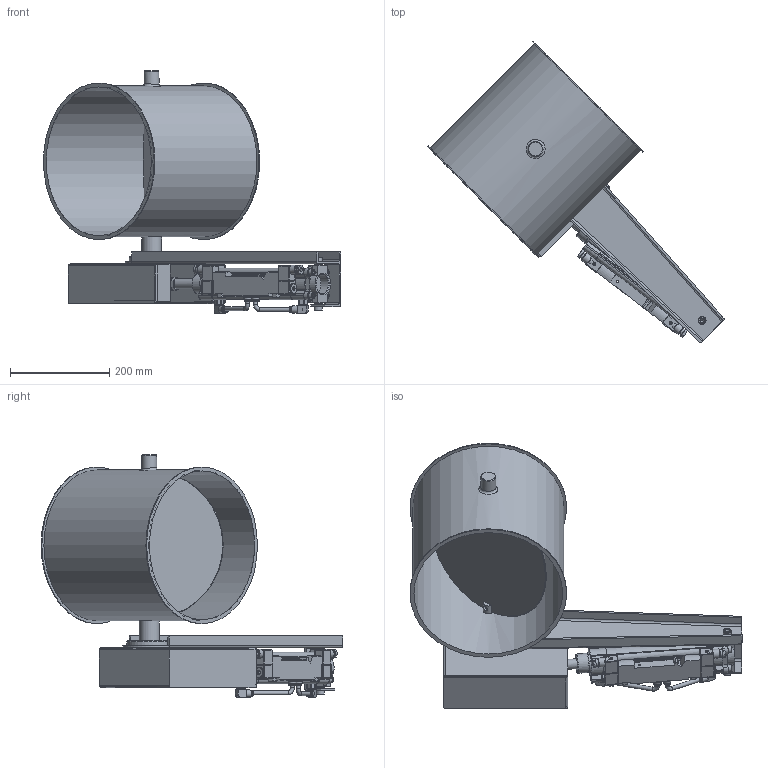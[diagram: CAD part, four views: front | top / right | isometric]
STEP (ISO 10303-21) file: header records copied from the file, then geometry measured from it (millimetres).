
FILE_DESCRIPTION((''),'2;1');
FILE_NAME('U:\Wolfgang\Marcel-3D\fertig\Kapitel 8\3021211.stp','2012-01-13T11:17:38',('iwienholt'),(''),'Autodesk Inventor 2010','Autodesk Inventor 2010','');
FILE_SCHEMA(('AUTOMOTIVE_DESIGN { 1 0 10303 214 1 1 1 1 }'));
Length unit declared in the file: millimetre
Products named in the file (33): 3021211; BuchseD20 90-50; Bolzen D20; Scheibe300b; F1 Zylindereinheit d20; 4527_MSFG_24_42_50_60_6_0; 4527_MSFG_24_42_50_60_6_01; 4527_MSFG_24_42_50_60_6_02; 537600_VUVB_S_B42_ZD_Q8_3AC1_6_0; 537600_VUVB_S_B42_ZD_Q8_3AC1_6_01; 537600_VUVB_S_B42_ZD_Q8_3AC1_6_02; 537600_VUVB_S_B42_ZD_Q8_3AC1_6_03; 153414_QSRL_1_4_8_6_0; schlauch; Schutzkasten; Kasten-a; Kasten-b; 532756_DNCB_50_160_PPV_A_6_0; 532756_DNCB_50_160_PPV_A_6_01; 532756_DNCB_50_160_PPV_A_6_02; 6146_SG_M16x15_6_0; 6146_SG_M16x15_6_01; 6146_SG_M16x15_6_02; 174413_ZNCF_50_6_0; 174413_ZNCF_50_6_01; 174413_ZNCF_50_6_02; 174413_ZNCF_50_6_03; 174413_ZNCF_50_6_04; 174413_ZNCF_50_6_05; 0021088 d20; Strebe d20; Bolzen20; 3021211-1
Assembly tree (36 placements, depth 4):
  3021211
    BuchseD20 90-50
    Bolzen D20  x2
    Scheibe300b
    F1 Zylindereinheit d20
      4527_MSFG_24_42_50_60_6_0  x2
        4527_MSFG_24_42_50_60_6_01
        4527_MSFG_24_42_50_60_6_02
      537600_VUVB_S_B42_ZD_Q8_3AC1_6_0
        537600_VUVB_S_B42_ZD_Q8_3AC1_6_01
        537600_VUVB_S_B42_ZD_Q8_3AC1_6_02
        537600_VUVB_S_B42_ZD_Q8_3AC1_6_03
      153414_QSRL_1_4_8_6_0  x2
      schlauch  x2
      Schutzkasten
        Kasten-a
        Kasten-b
      532756_DNCB_50_160_PPV_A_6_0
        532756_DNCB_50_160_PPV_A_6_01
        532756_DNCB_50_160_PPV_A_6_02
      6146_SG_M16x15_6_0
        6146_SG_M16x15_6_01
        6146_SG_M16x15_6_02
      174413_ZNCF_50_6_0
        174413_ZNCF_50_6_01
        174413_ZNCF_50_6_02
        174413_ZNCF_50_6_03
        174413_ZNCF_50_6_04
        174413_ZNCF_50_6_05
      0021088 d20
      Strebe d20
      Bolzen20
    3021211-1
Bounding box: 597.51 x 606.7 x 487.27 mm (x, y, z)
Volume: 2579566.1 mm3; surface area: 1475140.4 mm2
Topology: 30 solids, 30 shells, 2508 faces, 6742 edges, 4407 vertices
Faces by surface type: plane 1897, cylinder 426, cone 146, bspline 27, torus 10, sphere 2
Full cylindrical faces by diameter (mm): 1 x6, 2.459 x2, 3 x4, 3.5 x2, 4 x2, 4.5 x1, 5 x4, 5.471 x2, 5.5 x2, 6 x16, 6.647 x8, 7.188 x2, 8 x22, 8.05 x2, 9 x6, 9.6 x2, 10 x2, 10.15 x2, 11.445 x2, 12 x2, 13 x4, 13.05 x2, 13.157 x2, 13.346 x1, 14 x6, 14.376 x2, 14.4 x4, 14.5 x2, 14.7 x6, 15.1 x2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
Entity records: 72135 total; most frequent: CARTESIAN_POINT 13804, ORIENTED_EDGE 11672, DIRECTION 11202, EDGE_CURVE 5836, VECTOR 4780, LINE 4780, VERTEX_POINT 3956, EDGE_LOOP 3240
